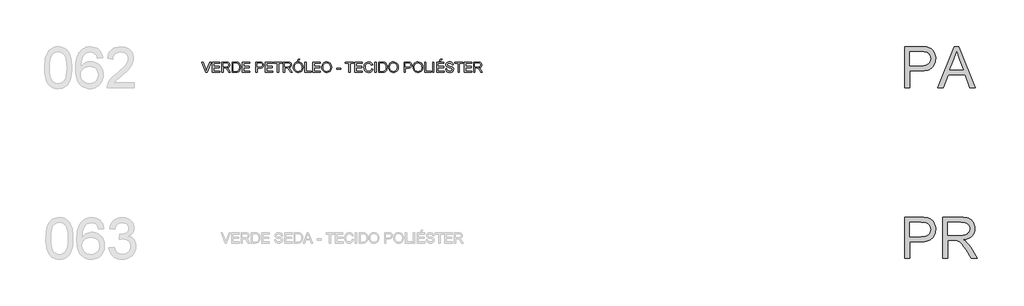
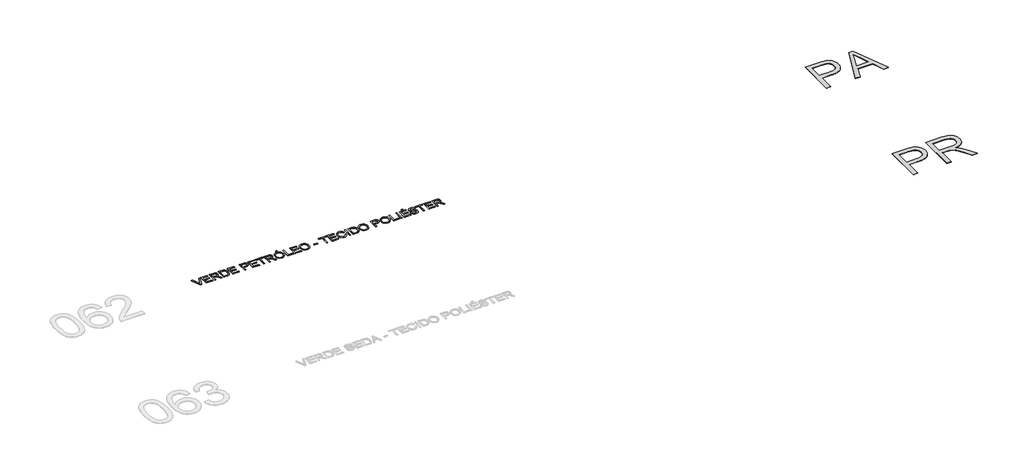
# One storey, part 41 of 67: 3 proxies.
"""IFC4 building model written with IfcOpenShell, lengths in millimetres."""

from ifc_helpers import new_model, si_unit, origin, origin_with_axes, place, context, project, spatial, polyline, outline, extrude, element, save

model = new_model("IFC4")

# Units and contexts
model_context = context("Model", 3, world=origin())
ifc_project = project(units=[si_unit("LENGTHUNIT", "METRE", prefix="MILLI")], contexts=[model_context])

# Site, building, storey
site = spatial("IfcSite", under=ifc_project)
building = spatial("IfcBuilding", under=site)
storey = spatial("IfcBuildingStorey", under=building, Name="Marelli - Linha COLAB - Planta Baixa", Elevation=0.0)

# Proxies
placement = place(None, origin())
element("IfcBuildingElementProxy", 1, Name="1200mm Arial", ObjectType="1200mm Arial", at=placement, inside=storey, context=model_context, shape_type="SweptSolid", body=[
    extrude(outline(polyline([(24875.3752953, -67980.5663201), (24875.3752953, -66775.0905983), (25322.1311902, -66775.0905983), (25426.1682184, -66777.9600778), (25502.246215, -66786.5685165), (25544.1755654, -66795.6092166), (25582.5548546, -66808.0160368), (25617.3840825, -66823.7889774), (25648.6632491, -66842.9280382), (25676.7234483, -66865.8286924), (25701.8957738, -66892.8864131), (25724.1802257, -66924.1012004), (25743.5768039, -66959.4730543), (25759.2853651, -66997.8339493), (25770.5057659, -67038.0158602), (25777.2380064, -67080.018787), (25779.4820866, -67123.8427297), (25773.4212307, -67197.842193), (25765.8451609, -67232.6208371), (25755.2386631, -67265.9187562), (25741.6017374, -67297.7359503), (25724.9343838, -67328.0724193), (25705.2366022, -67356.9281633), (25682.5083927, -67384.3031823), (25655.8254517, -67409.2731727), (25624.2634758, -67430.9138311), (25587.8224649, -67449.2251574), (25546.5024191, -67464.2071516), (25500.3033382, -67475.8598138), (25449.2252225, -67484.183144), (25393.2680718, -67489.1771421), (25332.4318861, -67490.8418081), (25026.0597605, -67490.8418081), (25026.0597605, -67980.5663201), (24875.3752953, -67980.5663201)]), holes=[polyline([(25026.0597605, -67340.1573429), (25341.2610539, -67340.1573429), (25413.733807, -67336.6992521), (25474.8757946, -67326.3249798), (25524.6870167, -67309.0345261), (25563.1674734, -67284.8278908), (25591.8806632, -67254.3488675), (25612.3900844, -67218.2412497), (25624.6957371, -67176.5050373), (25628.7976214, -67129.1402304), (25626.3787973, -67093.9707117), (25619.1223249, -67061.4499433), (25607.0282043, -67031.5779253), (25590.0964355, -67004.3546577), (25569.2283293, -66980.6630572), (25545.3251967, -66961.3860406), (25518.3870376, -66946.523608), (25488.413852, -66936.0757594), (25430.2884968, -66928.3502375), (25337.7293868, -66925.7750635), (25026.0597605, -66925.7750635), (25026.0597605, -67340.1573429)])]), origin_with_axes(), (0.0, 0.0, 1.0), 10.0),
    extrude(outline(polyline([(25846.2894569, -67980.5663201), (26327.4791066, -66775.0905983), (26455.7963465, -66775.0905983), (26936.9859962, -67980.5663201), (26777.7666687, -67980.5663201), (26639.7373441, -67603.855157), (26143.2438034, -67603.855157), (26005.5087844, -67980.5663201), (25846.2894569, -67980.5663201)]), holes=[polyline([(26198.5732555, -67453.1706918), (26584.7021976, -67453.1706918), (26476.1034327, -67156.8049565), (26391.6377266, -66925.7750635), (26316.5897996, -67130.906064), (26198.5732555, -67453.1706918)])]), origin_with_axes(), (0.0, 0.0, 1.0), 10.0),
])
element("IfcBuildingElementProxy", 2, Name="1200mm Arial", ObjectType="1200mm Arial", at=placement, inside=storey, context=model_context, shape_type="SweptSolid", body=[
    extrude(outline(polyline([(24875.3752953, -72980.5663201), (24875.3752953, -71775.0905983), (25322.1311902, -71775.0905983), (25426.1682184, -71777.9600778), (25502.246215, -71786.5685165), (25544.1755654, -71795.6092166), (25582.5548546, -71808.0160368), (25617.3840825, -71823.7889774), (25648.6632491, -71842.9280382), (25676.7234483, -71865.8286924), (25701.8957738, -71892.8864131), (25724.1802257, -71924.1012004), (25743.5768039, -71959.4730543), (25759.2853651, -71997.8339493), (25770.5057659, -72038.0158602), (25777.2380064, -72080.018787), (25779.4820866, -72123.8427297), (25773.4212307, -72197.842193), (25765.8451609, -72232.6208371), (25755.2386631, -72265.9187562), (25741.6017374, -72297.7359503), (25724.9343838, -72328.0724193), (25705.2366022, -72356.9281633), (25682.5083927, -72384.3031823), (25655.8254517, -72409.2731727), (25624.2634758, -72430.9138311), (25587.8224649, -72449.2251574), (25546.5024191, -72464.2071516), (25500.3033382, -72475.8598138), (25449.2252225, -72484.183144), (25393.2680718, -72489.1771421), (25332.4318861, -72490.8418081), (25026.0597605, -72490.8418081), (25026.0597605, -72980.5663201), (24875.3752953, -72980.5663201)]), holes=[polyline([(25026.0597605, -72340.1573429), (25341.2610539, -72340.1573429), (25413.733807, -72336.6992521), (25474.8757946, -72326.3249798), (25524.6870167, -72309.0345261), (25563.1674734, -72284.8278908), (25591.8806632, -72254.3488675), (25612.3900844, -72218.2412497), (25624.6957371, -72176.5050373), (25628.7976214, -72129.1402304), (25626.3787973, -72093.9707117), (25619.1223249, -72061.4499433), (25607.0282043, -72031.5779253), (25590.0964355, -72004.3546577), (25569.2283293, -71980.6630572), (25545.3251967, -71961.3860406), (25518.3870376, -71946.523608), (25488.413852, -71936.0757594), (25430.2884968, -71928.3502375), (25337.7293868, -71925.7750635), (25026.0597605, -71925.7750635), (25026.0597605, -72340.1573429)])]), origin_with_axes(), (0.0, 0.0, 1.0), 10.0),
    extrude(outline(polyline([(25986.6732263, -72980.5663201), (25986.6732263, -71775.0905983), (26506.1226035, -71775.0905983), (26580.6830868, -71777.1231463), (26645.7338206, -71783.2207904), (26701.2748049, -71793.3835305), (26747.3060395, -71807.6113666), (26786.5038661, -71826.9987478), (26821.5446261, -71852.6401229), (26852.4283196, -71884.5354918), (26879.1549466, -71922.6848547), (26900.7220286, -71965.0372694), (26916.1270871, -72009.5417938), (26925.3701222, -72056.1984278), (26928.4511339, -72105.0071715), (26923.3467713, -72166.9217113), (26908.0336832, -72223.7594796), (26882.5118698, -72275.5204763), (26846.781331, -72322.2047015), (26824.9728265, -72343.2705442), (26800.3822144, -72362.3222331), (26742.8546674, -72394.383149), (26674.19869, -72418.3874491), (26594.4142823, -72434.3351336), (26644.0783517, -72466.7823256), (26680.0572108, -72498.7880592), (26741.7878096, -72571.9965762), (26802.1940332, -72653.8871084), (27003.2047554, -72980.5663201), (26828.0929257, -72980.5663201), (26671.2280429, -72730.7008689), (26608.4673745, -72635.3458558), (26557.9203884, -72565.3011239), (26515.7978999, -72517.0717943), (26478.3107246, -72487.1629881), (26442.8101121, -72469.615017), (26406.647312, -72458.4681925), (26371.4042168, -72454.495067), (26319.2385499, -72453.1706918), (26137.3576915, -72453.1706918), (26137.3576915, -72980.5663201), (25986.6732263, -72980.5663201)]), holes=[polyline([(26137.3576915, -72302.4862266), (26474.6319047, -72302.4862266), (26571.495234, -72297.1519376), (26611.7875095, -72290.4840765), (26646.6535256, -72281.1490708), (26676.8750315, -72268.8802063), (26703.2337765, -72253.4107684), (26725.7297605, -72234.7407571), (26744.3629836, -72212.8701725), (26758.9770958, -72188.8750694), (26769.4157474, -72163.8315026), (26775.6789384, -72137.7394721), (26777.7666687, -72110.5989779), (26773.7843461, -72072.0633389), (26761.8373783, -72037.0961552), (26741.9257653, -72005.6974269), (26714.0495071, -71977.867154), (26677.5648103, -71955.0768644), (26631.8278812, -71938.7980861), (26576.83872, -71929.0308192), (26512.5973266, -71925.7750635), (26137.3576915, -71925.7750635), (26137.3576915, -72302.4862266)])]), origin_with_axes(), (0.0, 0.0, 1.0), 10.0),
])
element("IfcBuildingElementProxy", 3, Name="300mm Arial", ObjectType="300mm Arial", at=placement, inside=storey, context=model_context, shape_type="SweptSolid", body=[
    extrude(outline(polyline([(4405.978983, -67530.5663201), (4286.0494526, -67229.1973896), (4326.3693192, -67229.1973896), (4406.6411706, -67446.3213432), (4422.9015548, -67495.2496485), (4438.9412098, -67446.3213432), (4519.4337903, -67229.1973896), (4559.753657, -67229.1973896), (4444.9008981, -67530.5663201), (4405.978983, -67530.5663201)])), origin_with_axes(), (0.0, 0.0, 1.0), 10.0),
    extrude(outline(polyline([(4594.7760229, -67530.5663201), (4594.7760229, -67229.1973896), (4811.3849417, -67229.1973896), (4811.3849417, -67266.8685059), (4632.4471392, -67266.8685059), (4632.4471392, -67356.3374072), (4801.9671626, -67356.3374072), (4801.9671626, -67394.0085235), (4632.4471392, -67394.0085235), (4632.4471392, -67492.8952038), (4816.0938312, -67492.8952038), (4816.0938312, -67530.5663201), (4594.7760229, -67530.5663201)])), origin_with_axes(), (0.0, 0.0, 1.0), 10.0),
    extrude(outline(polyline([(4872.6005057, -67530.5663201), (4872.6005057, -67229.1973896), (5002.46285, -67229.1973896), (5037.3656543, -67231.2299376), (5062.758709, -67237.3275817), (5081.3183556, -67248.5847708), (5095.7209357, -67266.0959537), (5104.9639709, -67287.8101885), (5108.0449826, -67311.6765329), (5102.9406199, -67341.3646099), (5087.6275318, -67365.9759154), (5076.0277527, -67376.0052983), (5061.6458659, -67384.0205273), (5024.5357697, -67394.0085235), (5045.9465018, -67410.1217548), (5076.4807074, -67448.8965171), (5126.7333879, -67530.5663201), (5082.9554305, -67530.5663201), (5043.7392098, -67468.0999573), (5015.4122962, -67426.750021), (4995.5098803, -67407.2154871), (4977.5940271, -67400.0417882), (4955.7418366, -67398.717413), (4910.271622, -67398.717413), (4910.271622, -67530.5663201), (4872.6005057, -67530.5663201)]), holes=[polyline([(4910.271622, -67361.0462967), (4994.5901753, -67361.0462967), (5018.8060076, -67359.7127245), (5037.5955805, -67355.7120078), (5051.7406432, -67348.7774322), (5062.022945, -67338.6422832), (5068.286136, -67326.3826157), (5070.3738663, -67313.0744845), (5066.3915437, -67294.6987789), (5054.4445759, -67279.8915286), (5033.8891694, -67270.1242616), (5004.0815307, -67266.8685059), (4910.271622, -67266.8685059), (4910.271622, -67361.0462967)])]), origin_with_axes(), (0.0, 0.0, 1.0), 10.0),
    extrude(outline(polyline([(5173.9694361, -67530.5663201), (5173.9694361, -67229.1973896), (5277.932888, -67229.1973896), (5331.7172356, -67233.5383972), (5355.7399299, -67241.9077126), (5376.0102279, -67255.0962821), (5396.8507429, -67278.0521186), (5411.6947814, -67306.5997614), (5420.5791316, -67340.1873876), (5423.5405816, -67378.2631741), (5421.5356248, -67410.6091985), (5415.5207542, -67439.0740679), (5406.3604925, -67463.3082943), (5394.9193624, -67482.9623899), (5381.749187, -67498.477813), (5367.4017892, -67510.2960221), (5350.9298728, -67519.0608107), (5331.3861419, -67525.4159721), (5282.9360831, -67530.5663201), (5173.9694361, -67530.5663201)]), holes=[polyline([(5211.6405524, -67492.8952038), (5278.3007699, -67492.8952038), (5305.8735255, -67491.5340404), (5326.7876169, -67487.4505502), (5342.5697545, -67480.8838566), (5354.7466485, -67472.0730828), (5367.8340505, -67455.7667134), (5377.6656968, -67434.6594839), (5383.8185232, -67408.6594239), (5385.8694653, -67377.6745629), (5381.8503545, -67336.6189322), (5369.7930222, -67306.3054558), (5351.9783365, -67285.4833349), (5330.6871661, -67272.9017706), (5309.0189165, -67268.3768221), (5277.2707004, -67266.8685059), (5211.6405524, -67266.8685059), (5211.6405524, -67492.8952038)])]), origin_with_axes(), (0.0, 0.0, 1.0), 10.0),
    extrude(outline(polyline([(5475.3383666, -67530.5663201), (5475.3383666, -67229.1973896), (5691.9472853, -67229.1973896), (5691.9472853, -67266.8685059), (5513.0094829, -67266.8685059), (5513.0094829, -67356.3374072), (5682.5295062, -67356.3374072), (5682.5295062, -67394.0085235), (5513.0094829, -67394.0085235), (5513.0094829, -67492.8952038), (5696.6561749, -67492.8952038), (5696.6561749, -67530.5663201), (5475.3383666, -67530.5663201)])), origin_with_axes(), (0.0, 0.0, 1.0), 10.0),
    extrude(outline(polyline([(5870.8850878, -67530.5663201), (5870.8850878, -67229.1973896), (5982.5740615, -67229.1973896), (6027.6028177, -67232.0668692), (6047.6799776, -67237.4287493), (6064.2070762, -67246.1567496), (6077.5152074, -67258.6463433), (6087.9354649, -67275.2930036), (6094.6677054, -67294.9287051), (6096.9117856, -67316.3854225), (6095.3965716, -67334.8852883), (6090.8509297, -67351.9044291), (6083.2748599, -67367.4428449), (6072.6683621, -67381.5005356), (6058.1071329, -67393.1531978), (6038.6668687, -67401.476528), (6014.3475696, -67406.470526), (5985.1492355, -67408.1351921), (5908.5562041, -67408.1351921), (5908.5562041, -67530.5663201), (5870.8850878, -67530.5663201)]), holes=[polyline([(5908.5562041, -67370.4640758), (5987.3565275, -67370.4640758), (6020.7602126, -67367.005985), (6042.8331323, -67356.6317127), (6055.1387851, -67339.9850525), (6059.2406693, -67317.7097977), (6056.8218452, -67300.7872259), (6049.5653728, -67286.5134045), (6038.3725631, -67275.7712502), (6024.144727, -67269.4436799), (5986.4736107, -67266.8685059), (5908.5562041, -67266.8685059), (5908.5562041, -67370.4640758)])]), origin_with_axes(), (0.0, 0.0, 1.0), 10.0),
    extrude(outline(polyline([(6148.7095705, -67530.5663201), (6148.7095705, -67229.1973896), (6365.3184893, -67229.1973896), (6365.3184893, -67266.8685059), (6186.3806868, -67266.8685059), (6186.3806868, -67356.3374072), (6355.9007102, -67356.3374072), (6355.9007102, -67394.0085235), (6186.3806868, -67394.0085235), (6186.3806868, -67492.8952038), (6370.0273788, -67492.8952038), (6370.0273788, -67530.5663201), (6148.7095705, -67530.5663201)])), origin_with_axes(), (0.0, 0.0, 1.0), 10.0),
    extrude(outline(polyline([(6501.8762859, -67530.5663201), (6501.8762859, -67266.8685059), (6402.9896056, -67266.8685059), (6402.9896056, -67229.1973896), (6638.4340825, -67229.1973896), (6638.4340825, -67266.8685059), (6539.5474022, -67266.8685059), (6539.5474022, -67530.5663201), (6501.8762859, -67530.5663201)])), origin_with_axes(), (0.0, 0.0, 1.0), 10.0),
    extrude(outline(polyline([(6680.8140884, -67530.5663201), (6680.8140884, -67229.1973896), (6810.6764327, -67229.1973896), (6845.579237, -67231.2299376), (6870.9722917, -67237.3275817), (6889.5319383, -67248.5847708), (6903.9345184, -67266.0959537), (6913.1775536, -67287.8101885), (6916.2585653, -67311.6765329), (6911.1542026, -67341.3646099), (6895.8411145, -67365.9759154), (6884.2413354, -67376.0052983), (6869.8594486, -67384.0205273), (6832.7493524, -67394.0085235), (6854.1600845, -67410.1217548), (6884.6942901, -67448.8965171), (6934.9469706, -67530.5663201), (6891.1690132, -67530.5663201), (6851.9527925, -67468.0999573), (6823.6258789, -67426.750021), (6803.723463, -67407.2154871), (6785.8076098, -67400.0417882), (6763.9554193, -67398.717413), (6718.4852047, -67398.717413), (6718.4852047, -67530.5663201), (6680.8140884, -67530.5663201)]), holes=[polyline([(6718.4852047, -67361.0462967), (6802.803758, -67361.0462967), (6827.0195903, -67359.7127245), (6845.8091632, -67355.7120078), (6859.9542259, -67348.7774322), (6870.2365277, -67338.6422832), (6876.4997186, -67326.3826157), (6878.587449, -67313.0744845), (6874.6051264, -67294.6987789), (6862.6581586, -67279.8915286), (6842.1027521, -67270.1242616), (6812.2951134, -67266.8685059), (6718.4852047, -67266.8685059), (6718.4852047, -67361.0462967)])]), origin_with_axes(), (0.0, 0.0, 1.0), 10.0),
    extrude(outline(polyline([(6968.0563502, -67383.8549804), (6970.5671448, -67348.5061192), (6978.0995287, -67317.213157), (6990.6535017, -67289.9760937), (7008.2290641, -67266.7949295), (7029.7731534, -67248.2858666), (7054.2327076, -67235.0651074), (7081.6077265, -67227.1326519), (7111.8982103, -67224.4885001), (7151.4271307, -67229.454907), (7186.8725609, -67244.3541278), (7216.3031205, -67268.1376988), (7237.7874291, -67299.7571563), (7250.9208163, -67337.68579), (7255.298612, -67380.3968896), (7250.69089, -67423.6782064), (7236.8677241, -67462.140269), (7214.5924693, -67493.8149087), (7184.6284808, -67516.733957), (7149.4865532, -67530.6398965), (7111.6774811, -67535.2752096), (7071.5415554, -67530.1524528), (7035.8937901, -67514.7841825), (7006.5368069, -67490.5591531), (6985.2732276, -67458.8661192), (6972.3605695, -67422.3998164), (6968.0563502, -67383.8549804)]), holes=[polyline([(7005.7274665, -67384.2228624), (7007.6105625, -67409.1974513), (7013.2598504, -67431.3669401), (7022.6753302, -67450.7313286), (7035.8570019, -67467.2906169), (7051.8805621, -67480.5527628), (7069.8217071, -67490.0257242), (7089.6804371, -67495.709501), (7111.4567519, -67497.6040933), (7133.6055473, -67495.6911069), (7153.698802, -67489.9521478), (7171.7365161, -67480.3872159), (7187.7186895, -67466.9963113), (7200.8037922, -67450.0875351), (7210.1502942, -67429.9689885), (7215.7581953, -67406.6406715), (7217.6274957, -67380.102584), (7214.4269224, -67346.7540812), (7204.8252023, -67317.9305269), (7189.0706558, -67294.358488), (7167.4116034, -67276.7645316), (7141.2827847, -67265.8108452), (7112.1189395, -67262.1596164), (7091.099082, -67263.9185522), (7071.5967377, -67269.1953595), (7053.6119067, -67277.9900385), (7037.1445889, -67290.302589), (7023.3995978, -67306.7262208), (7013.5817471, -67327.8541437), (7007.6910367, -67353.6863575), (7005.7274665, -67384.2228624)])]), origin_with_axes(), (0.0, 0.0, 1.0), 10.0),
    extrude(outline(polyline([(7085.7785887, -67210.3618315), (7114.0319259, -67153.855157), (7161.1208213, -67153.855157), (7114.0319259, -67210.3618315), (7085.7785887, -67210.3618315)])), origin_with_axes(), (0.0, 0.0, 1.0), 10.0),
    extrude(outline(polyline([(7307.096397, -67530.5663201), (7307.096397, -67229.1973896), (7344.7675133, -67229.1973896), (7344.7675133, -67492.8952038), (7495.4519785, -67492.8952038), (7495.4519785, -67530.5663201), (7307.096397, -67530.5663201)])), origin_with_axes(), (0.0, 0.0, 1.0), 10.0),
    extrude(outline(polyline([(7537.8319843, -67530.5663201), (7537.8319843, -67229.1973896), (7754.4409031, -67229.1973896), (7754.4409031, -67266.8685059), (7575.5031006, -67266.8685059), (7575.5031006, -67356.3374072), (7745.023124, -67356.3374072), (7745.023124, -67394.0085235), (7575.5031006, -67394.0085235), (7575.5031006, -67492.8952038), (7759.1497926, -67492.8952038), (7759.1497926, -67530.5663201), (7537.8319843, -67530.5663201)])), origin_with_axes(), (0.0, 0.0, 1.0), 10.0),
    extrude(outline(polyline([(7801.5297985, -67383.8549804), (7804.0405931, -67348.5061192), (7811.5729769, -67317.213157), (7824.12695, -67289.9760937), (7841.7025123, -67266.7949295), (7863.2466017, -67248.2858666), (7887.7061558, -67235.0651074), (7915.0811748, -67227.1326519), (7945.3716586, -67224.4885001), (7984.900579, -67229.454907), (8020.3460092, -67244.3541278), (8049.7765688, -67268.1376988), (8071.2608773, -67299.7571563), (8084.3942646, -67337.68579), (8088.7720603, -67380.3968896), (8084.1643383, -67423.6782064), (8070.3411723, -67462.140269), (8048.0659175, -67493.8149087), (8018.101929, -67516.733957), (7982.9600014, -67530.6398965), (7945.1509294, -67535.2752096), (7905.0150037, -67530.1524528), (7869.3672384, -67514.7841825), (7840.0102552, -67490.5591531), (7818.7466758, -67458.8661192), (7805.8340178, -67422.3998164), (7801.5297985, -67383.8549804)]), holes=[polyline([(7839.2009148, -67384.2228624), (7841.0840107, -67409.1974513), (7846.7332986, -67431.3669401), (7856.1487784, -67450.7313286), (7869.3304502, -67467.2906169), (7885.3540103, -67480.5527628), (7903.2951554, -67490.0257242), (7923.1538853, -67495.709501), (7944.9302002, -67497.6040933), (7967.0789956, -67495.6911069), (7987.1722503, -67489.9521478), (8005.2099644, -67480.3872159), (8021.1921378, -67466.9963113), (8034.2772405, -67450.0875351), (8043.6237424, -67429.9689885), (8049.2316436, -67406.6406715), (8051.100944, -67380.102584), (8047.9003706, -67346.7540812), (8038.2986506, -67317.9305269), (8022.5441041, -67294.358488), (8000.8850517, -67276.7645316), (7974.7562329, -67265.8108452), (7945.5923878, -67262.1596164), (7924.5725303, -67263.9185522), (7905.070186, -67269.1953595), (7887.085355, -67277.9900385), (7870.6180372, -67290.302589), (7856.8730461, -67306.7262208), (7847.0551954, -67327.8541437), (7841.1644849, -67353.6863575), (7839.2009148, -67384.2228624)])]), origin_with_axes(), (0.0, 0.0, 1.0), 10.0),
    extrude(outline(polyline([(8234.747636, -67441.0974188), (8234.747636, -67403.4263025), (8352.4698744, -67403.4263025), (8352.4698744, -67441.0974188), (8234.747636, -67441.0974188)])), origin_with_axes(), (0.0, 0.0, 1.0), 10.0),
    extrude(outline(polyline([(8592.6232409, -67530.5663201), (8592.6232409, -67266.8685059), (8493.7365606, -67266.8685059), (8493.7365606, -67229.1973896), (8729.1810375, -67229.1973896), (8729.1810375, -67266.8685059), (8630.2943572, -67266.8685059), (8630.2943572, -67530.5663201), (8592.6232409, -67530.5663201)])), origin_with_axes(), (0.0, 0.0, 1.0), 10.0),
    extrude(outline(polyline([(8771.5610434, -67530.5663201), (8771.5610434, -67229.1973896), (8988.1699621, -67229.1973896), (8988.1699621, -67266.8685059), (8809.2321597, -67266.8685059), (8809.2321597, -67356.3374072), (8978.752183, -67356.3374072), (8978.752183, -67394.0085235), (8809.2321597, -67394.0085235), (8809.2321597, -67492.8952038), (8992.8788516, -67492.8952038), (8992.8788516, -67530.5663201), (8771.5610434, -67530.5663201)])), origin_with_axes(), (0.0, 0.0, 1.0), 10.0),
    extrude(outline(polyline([(9261.2855553, -67423.4390831), (9298.9566716, -67433.1511677), (9291.5024627, -67456.5783531), (9281.5742474, -67477.0486868), (9269.1720256, -67494.5621691), (9254.2957974, -67509.1187997), (9237.2812551, -67520.5622291), (9218.4640911, -67528.7361071), (9197.8443053, -67533.640434), (9175.4218977, -67535.2752096), (9131.7267137, -67530.3271968), (9097.0262445, -67515.4831583), (9070.4283762, -67491.2581289), (9051.0409951, -67458.1671434), (9039.2043919, -67419.2636224), (9035.2588575, -67377.6009865), (9039.7194267, -67333.6574821), (9053.1011343, -67295.7104543), (9074.7050044, -67264.9647166), (9103.8320614, -67242.6250824), (9138.3761807, -67229.0226457), (9176.231238, -67224.4885001), (9217.5351891, -67230.3562179), (9235.5039253, -67237.6908652), (9251.6838353, -67247.9593714), (9265.8082046, -67260.8904235), (9277.6103189, -67276.2127086), (9294.2477821, -67314.0309777), (9256.5766658, -67323.0072984), (9243.516855, -67295.5357104), (9225.6745782, -67276.6909552), (9202.8291063, -67265.7924511), (9174.7597101, -67262.1596164), (9142.4044886, -67266.1879242), (9115.8250144, -67278.2728478), (9095.6558841, -67297.1451941), (9082.5316939, -67321.5357704), (9075.3304038, -67349.1085259), (9072.9299738, -67377.5274101), (9075.7718622, -67412.3290468), (9084.2975275, -67442.421794), (9098.8288663, -67466.6560205), (9119.6877754, -67483.8820949), (9144.694554, -67494.1735937), (9171.6695013, -67497.6040933), (9203.1142148, -67492.931992), (9229.3166099, -67478.9156879), (9249.0994642, -67455.702334), (9261.2855553, -67423.4390831)])), origin_with_axes(), (0.0, 0.0, 1.0), 10.0),
    extrude(outline(polyline([(9355.4633461, -67530.5663201), (9355.4633461, -67229.1973896), (9393.1344624, -67229.1973896), (9393.1344624, -67530.5663201), (9355.4633461, -67530.5663201)])), origin_with_axes(), (0.0, 0.0, 1.0), 10.0),
    extrude(outline(polyline([(9468.476695, -67530.5663201), (9468.476695, -67229.1973896), (9572.4401469, -67229.1973896), (9626.2244945, -67233.5383972), (9650.2471888, -67241.9077126), (9670.5174868, -67255.0962821), (9691.3580018, -67278.0521186), (9706.2020403, -67306.5997614), (9715.0863905, -67340.1873876), (9718.0478405, -67378.2631741), (9716.0428837, -67410.6091985), (9710.028013, -67439.0740679), (9700.8677514, -67463.3082943), (9689.4266213, -67482.9623899), (9676.2564459, -67498.477813), (9661.9090481, -67510.2960221), (9645.4371317, -67519.0608107), (9625.8934007, -67525.4159721), (9577.443342, -67530.5663201), (9468.476695, -67530.5663201)]), holes=[polyline([(9506.1478113, -67492.8952038), (9572.8080288, -67492.8952038), (9600.3807844, -67491.5340404), (9621.2948758, -67487.4505502), (9637.0770134, -67480.8838566), (9649.2539074, -67472.0730828), (9662.3413094, -67455.7667134), (9672.1729557, -67434.6594839), (9678.3257821, -67408.6594239), (9680.3767242, -67377.6745629), (9676.3576134, -67336.6189322), (9664.300281, -67306.3054558), (9646.4855954, -67285.4833349), (9625.194425, -67272.9017706), (9603.5261754, -67268.3768221), (9571.7779593, -67266.8685059), (9506.1478113, -67266.8685059), (9506.1478113, -67492.8952038)])]), origin_with_axes(), (0.0, 0.0, 1.0), 10.0),
    extrude(outline(polyline([(9755.7189568, -67383.8549804), (9758.2297515, -67348.5061192), (9765.7621353, -67317.213157), (9778.3161084, -67289.9760937), (9795.8916707, -67266.7949295), (9817.4357601, -67248.2858666), (9841.8953142, -67235.0651074), (9869.2703332, -67227.1326519), (9899.560817, -67224.4885001), (9939.0897373, -67229.454907), (9974.5351676, -67244.3541278), (10003.9657272, -67268.1376988), (10025.4500357, -67299.7571563), (10038.5834229, -67337.68579), (10042.9612187, -67380.3968896), (10038.3534967, -67423.6782064), (10024.5303307, -67462.140269), (10002.2550759, -67493.8149087), (9972.2910874, -67516.733957), (9937.1491598, -67530.6398965), (9899.3400878, -67535.2752096), (9859.2041621, -67530.1524528), (9823.5563968, -67514.7841825), (9794.1994135, -67490.5591531), (9772.9358342, -67458.8661192), (9760.0231762, -67422.3998164), (9755.7189568, -67383.8549804)]), holes=[polyline([(9793.3900732, -67384.2228624), (9795.2731691, -67409.1974513), (9800.922457, -67431.3669401), (9810.3379368, -67450.7313286), (9823.5196086, -67467.2906169), (9839.5431687, -67480.5527628), (9857.4843138, -67490.0257242), (9877.3430437, -67495.709501), (9899.1193586, -67497.6040933), (9921.2681539, -67495.6911069), (9941.3614087, -67489.9521478), (9959.3991227, -67480.3872159), (9975.3812962, -67466.9963113), (9988.4663989, -67450.0875351), (9997.8129008, -67429.9689885), (10003.420802, -67406.6406715), (10005.2901024, -67380.102584), (10002.089529, -67346.7540812), (9992.4878089, -67317.9305269), (9976.7332625, -67294.358488), (9955.07421, -67276.7645316), (9928.9453913, -67265.8108452), (9899.7815462, -67262.1596164), (9878.7616887, -67263.9185522), (9859.2593444, -67269.1953595), (9841.2745134, -67277.9900385), (9824.8071955, -67290.302589), (9811.0622045, -67306.7262208), (9801.2443538, -67327.8541437), (9795.3536433, -67353.6863575), (9793.3900732, -67384.2228624)])]), origin_with_axes(), (0.0, 0.0, 1.0), 10.0),
    extrude(outline(polyline([(10212.4812421, -67530.5663201), (10212.4812421, -67229.1973896), (10324.1702158, -67229.1973896), (10369.198972, -67232.0668692), (10389.2761319, -67237.4287493), (10405.8032305, -67246.1567496), (10419.1113617, -67258.6463433), (10429.5316192, -67275.2930036), (10436.2638597, -67294.9287051), (10438.5079399, -67316.3854225), (10436.9927259, -67334.8852883), (10432.447084, -67351.9044291), (10424.8710142, -67367.4428449), (10414.2645164, -67381.5005356), (10399.7032872, -67393.1531978), (10380.263023, -67401.476528), (10355.9437239, -67406.470526), (10326.7453898, -67408.1351921), (10250.1523584, -67408.1351921), (10250.1523584, -67530.5663201), (10212.4812421, -67530.5663201)]), holes=[polyline([(10250.1523584, -67370.4640758), (10328.9526817, -67370.4640758), (10362.3563669, -67367.005985), (10384.4292866, -67356.6317127), (10396.7349393, -67339.9850525), (10400.8368236, -67317.7097977), (10398.4179995, -67300.7872259), (10391.1615271, -67286.5134045), (10379.9687174, -67275.7712502), (10365.7408812, -67269.4436799), (10328.0697649, -67266.8685059), (10250.1523584, -67266.8685059), (10250.1523584, -67370.4640758)])]), origin_with_axes(), (0.0, 0.0, 1.0), 10.0),
    extrude(outline(polyline([(10476.1790562, -67383.8549804), (10478.6898508, -67348.5061192), (10486.2222347, -67317.213157), (10498.7762078, -67289.9760937), (10516.3517701, -67266.7949295), (10537.8958594, -67248.2858666), (10562.3554136, -67235.0651074), (10589.7304325, -67227.1326519), (10620.0209163, -67224.4885001), (10659.5498367, -67229.454907), (10694.9952669, -67244.3541278), (10724.4258265, -67268.1376988), (10745.9101351, -67299.7571563), (10759.0435223, -67337.68579), (10763.421318, -67380.3968896), (10758.813596, -67423.6782064), (10744.9904301, -67462.140269), (10722.7151753, -67493.8149087), (10692.7511868, -67516.733957), (10657.6092592, -67530.6398965), (10619.8001871, -67535.2752096), (10579.6642614, -67530.1524528), (10544.0164961, -67514.7841825), (10514.6595129, -67490.5591531), (10493.3959336, -67458.8661192), (10480.4832755, -67422.3998164), (10476.1790562, -67383.8549804)]), holes=[polyline([(10513.8501725, -67384.2228624), (10515.7332685, -67409.1974513), (10521.3825564, -67431.3669401), (10530.7980362, -67450.7313286), (10543.9797079, -67467.2906169), (10560.0032681, -67480.5527628), (10577.9444131, -67490.0257242), (10597.8031431, -67495.709501), (10619.5794579, -67497.6040933), (10641.7282533, -67495.6911069), (10661.821508, -67489.9521478), (10679.8592221, -67480.3872159), (10695.8413955, -67466.9963113), (10708.9264982, -67450.0875351), (10718.2730002, -67429.9689885), (10723.8809013, -67406.6406715), (10725.7502017, -67380.102584), (10722.5496284, -67346.7540812), (10712.9479083, -67317.9305269), (10697.1933619, -67294.358488), (10675.5343094, -67276.7645316), (10649.4054907, -67265.8108452), (10620.2416455, -67262.1596164), (10599.221788, -67263.9185522), (10579.7194437, -67269.1953595), (10561.7346127, -67277.9900385), (10545.2672949, -67290.302589), (10531.5223039, -67306.7262208), (10521.7044531, -67327.8541437), (10515.8137427, -67353.6863575), (10513.8501725, -67384.2228624)])]), origin_with_axes(), (0.0, 0.0, 1.0), 10.0),
    extrude(outline(polyline([(10815.219103, -67530.5663201), (10815.219103, -67229.1973896), (10852.8902193, -67229.1973896), (10852.8902193, -67492.8952038), (11003.5746845, -67492.8952038), (11003.5746845, -67530.5663201), (10815.219103, -67530.5663201)])), origin_with_axes(), (0.0, 0.0, 1.0), 10.0),
    extrude(outline(polyline([(11050.6635799, -67530.5663201), (11050.6635799, -67229.1973896), (11088.3346962, -67229.1973896), (11088.3346962, -67530.5663201), (11050.6635799, -67530.5663201)])), origin_with_axes(), (0.0, 0.0, 1.0), 10.0),
    extrude(outline(polyline([(11163.6769288, -67530.5663201), (11163.6769288, -67229.1973896), (11380.2858475, -67229.1973896), (11380.2858475, -67266.8685059), (11201.3480451, -67266.8685059), (11201.3480451, -67356.3374072), (11370.8680685, -67356.3374072), (11370.8680685, -67394.0085235), (11201.3480451, -67394.0085235), (11201.3480451, -67492.8952038), (11384.9947371, -67492.8952038), (11384.9947371, -67530.5663201), (11163.6769288, -67530.5663201)])), origin_with_axes(), (0.0, 0.0, 1.0), 10.0),
    extrude(outline(polyline([(11248.4369405, -67210.3618315), (11276.6902777, -67153.855157), (11323.7791731, -67153.855157), (11276.6902777, -67210.3618315), (11248.4369405, -67210.3618315)])), origin_with_axes(), (0.0, 0.0, 1.0), 10.0),
    extrude(outline(polyline([(11427.3747429, -67426.9707502), (11465.0458592, -67426.9707502), (11469.3684727, -67447.8756446), (11477.1859651, -67464.6786547), (11489.3812532, -67478.0143771), (11506.8372539, -67488.517408), (11528.1744096, -67495.332422), (11552.0131629, -67497.6040933), (11573.0008307, -67495.884245), (11591.3765364, -67490.7247), (11606.2665601, -67482.5577197), (11616.7971822, -67471.8155654), (11623.0603732, -67459.4823216), (11625.1481035, -67446.5420724), (11623.5846051, -67433.932917), (11618.8941096, -67423.0344129), (11609.3659659, -67413.7361954), (11593.2895228, -67405.9279001), (11538.4383173, -67391.5437141), (11502.431867, -67382.0247675), (11479.393257, -67372.9656733), (11460.6404723, -67360.2921386), (11447.3507353, -67344.9330653), (11439.4320753, -67327.2195472), (11436.792522, -67307.4826782), (11440.0574747, -67285.4189555), (11449.8523328, -67264.845155), (11465.919579, -67247.4075484), (11488.0016957, -67234.7524077), (11514.5075935, -67227.054477), (11543.8461826, -67224.4885001), (11575.631187, -67227.1740386), (11603.4430658, -67235.2306543), (11626.2885377, -67248.4928003), (11643.1743213, -67266.7949295), (11653.8612933, -67288.9966079), (11658.1103303, -67313.9574013), (11620.439214, -67313.9574013), (11613.5230325, -67291.4798114), (11599.1020583, -67275.2562154), (11576.5692861, -67265.4337661), (11545.3177106, -67262.1596164), (11513.3303711, -67265.3969779), (11491.3862101, -67275.1090626), (11478.6942813, -67289.4012781), (11474.4636383, -67306.3790322), (11477.4618766, -67320.8551887), (11486.4565914, -67332.4986539), (11507.7201707, -67342.9097143), (11547.9664609, -67353.541504), (11589.5003382, -67363.6398648), (11614.6266785, -67372.4506385), (11636.1017899, -67386.1174547), (11651.0837842, -67402.9848441), (11659.8853609, -67422.868866), (11662.8192198, -67445.5855792), (11659.4439025, -67468.8081301), (11649.3179506, -67490.6511236), (11632.8552313, -67509.4498935), (11610.4696119, -67523.539774), (11583.5498469, -67532.3413507), (11553.4846909, -67535.2752096), (11516.5769297, -67532.1114244), (11486.199074, -67522.620069), (11462.0016357, -67506.764355), (11443.6351271, -67484.5074943), (11431.8445092, -67457.3945912), (11427.3747429, -67426.9707502)])), origin_with_axes(), (0.0, 0.0, 1.0), 10.0),
    extrude(outline(polyline([(11794.6681269, -67530.5663201), (11794.6681269, -67266.8685059), (11695.7814466, -67266.8685059), (11695.7814466, -67229.1973896), (11931.2259235, -67229.1973896), (11931.2259235, -67266.8685059), (11832.3392432, -67266.8685059), (11832.3392432, -67530.5663201), (11794.6681269, -67530.5663201)])), origin_with_axes(), (0.0, 0.0, 1.0), 10.0),
    extrude(outline(polyline([(11973.6059294, -67530.5663201), (11973.6059294, -67229.1973896), (12190.2148481, -67229.1973896), (12190.2148481, -67266.8685059), (12011.2770457, -67266.8685059), (12011.2770457, -67356.3374072), (12180.7970691, -67356.3374072), (12180.7970691, -67394.0085235), (12011.2770457, -67394.0085235), (12011.2770457, -67492.8952038), (12194.9237377, -67492.8952038), (12194.9237377, -67530.5663201), (11973.6059294, -67530.5663201)])), origin_with_axes(), (0.0, 0.0, 1.0), 10.0),
    extrude(outline(polyline([(12251.4304121, -67530.5663201), (12251.4304121, -67229.1973896), (12381.2927564, -67229.1973896), (12416.1955607, -67231.2299376), (12441.5886154, -67237.3275817), (12460.1482621, -67248.5847708), (12474.5508422, -67266.0959537), (12483.7938773, -67287.8101885), (12486.874889, -67311.6765329), (12481.7705264, -67341.3646099), (12466.4574383, -67365.9759154), (12454.8576591, -67376.0052983), (12440.4757724, -67384.0205273), (12403.3656761, -67394.0085235), (12424.7764083, -67410.1217548), (12455.3106139, -67448.8965171), (12505.5632944, -67530.5663201), (12461.785337, -67530.5663201), (12422.5691163, -67468.0999573), (12394.2422027, -67426.750021), (12374.3397867, -67407.2154871), (12356.4239336, -67400.0417882), (12334.571743, -67398.717413), (12289.1015284, -67398.717413), (12289.1015284, -67530.5663201), (12251.4304121, -67530.5663201)]), holes=[polyline([(12289.1015284, -67361.0462967), (12373.4200817, -67361.0462967), (12397.6359141, -67359.7127245), (12416.425487, -67355.7120078), (12430.5705497, -67348.7774322), (12440.8528514, -67338.6422832), (12447.1160424, -67326.3826157), (12449.2037727, -67313.0744845), (12445.2214501, -67294.6987789), (12433.2744823, -67279.8915286), (12412.7190759, -67270.1242616), (12382.9114372, -67266.8685059), (12289.1015284, -67266.8685059), (12289.1015284, -67361.0462967)])]), origin_with_axes(), (0.0, 0.0, 1.0), 10.0),
])

save(model, "model.ifc")
